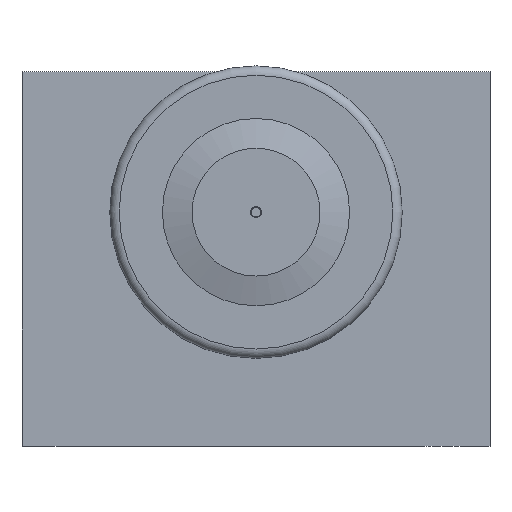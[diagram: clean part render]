
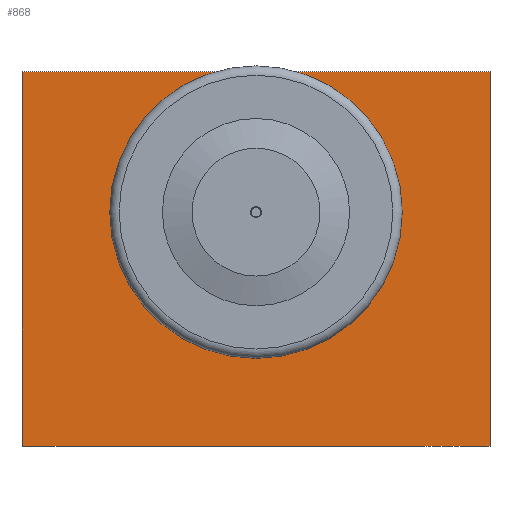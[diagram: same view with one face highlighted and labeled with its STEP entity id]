
A CAD part, front view. The second image highlights one B-rep face of the part: STEP entity #868.
In plain terms, the highlighted planar face has unit normal (0, -1, 0).
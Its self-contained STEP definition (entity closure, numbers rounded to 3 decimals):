
#38=FACE_BOUND('',#159,.T.);
#53=PLANE('',#980);
#95=FACE_OUTER_BOUND('',#158,.T.);
#158=EDGE_LOOP('',(#742,#743,#744,#745));
#159=EDGE_LOOP('',(#746,#747));
#185=LINE('',#1355,#256);
#190=LINE('',#1369,#261);
#208=LINE('',#1435,#279);
#211=LINE('',#1439,#282);
#256=VECTOR('',#1101,10.);
#261=VECTOR('',#1112,10.);
#279=VECTOR('',#1170,10.);
#282=VECTOR('',#1175,10.);
#366=CIRCLE('',#981,17.5);
#367=CIRCLE('',#982,17.5);
#400=VERTEX_POINT('',#1352);
#401=VERTEX_POINT('',#1354);
#407=VERTEX_POINT('',#1368);
#435=VERTEX_POINT('',#1434);
#444=VERTEX_POINT('',#1468);
#445=VERTEX_POINT('',#1469);
#494=EDGE_CURVE('',#401,#400,#185,.T.);
#501=EDGE_CURVE('',#407,#401,#190,.T.);
#534=EDGE_CURVE('',#407,#435,#208,.T.);
#537=EDGE_CURVE('',#435,#400,#211,.T.);
#551=EDGE_CURVE('',#444,#445,#366,.T.);
#552=EDGE_CURVE('',#445,#444,#367,.T.);
#742=ORIENTED_EDGE('',*,*,#494,.T.);
#743=ORIENTED_EDGE('',*,*,#537,.F.);
#744=ORIENTED_EDGE('',*,*,#534,.F.);
#745=ORIENTED_EDGE('',*,*,#501,.T.);
#746=ORIENTED_EDGE('',*,*,#551,.T.);
#747=ORIENTED_EDGE('',*,*,#552,.T.);
#868=ADVANCED_FACE('',(#95,#38),#53,.T.);
#980=AXIS2_PLACEMENT_3D('',#1467,#1201,#1202);
#981=AXIS2_PLACEMENT_3D('',#1470,#1203,#1204);
#982=AXIS2_PLACEMENT_3D('',#1471,#1205,#1206);
#1101=DIRECTION('',(0.,0.,1.));
#1112=DIRECTION('',(1.,0.,0.));
#1170=DIRECTION('',(0.,0.,1.));
#1175=DIRECTION('',(1.,0.,0.));
#1201=DIRECTION('center_axis',(0.,-1.,0.));
#1202=DIRECTION('ref_axis',(0.,0.,-1.));
#1203=DIRECTION('center_axis',(0.,1.,0.));
#1204=DIRECTION('ref_axis',(1.,0.,0.));
#1205=DIRECTION('center_axis',(0.,1.,0.));
#1206=DIRECTION('ref_axis',(1.,0.,0.));
#1352=CARTESIAN_POINT('',(100.,0.,80.));
#1354=CARTESIAN_POINT('',(100.,0.,0.));
#1355=CARTESIAN_POINT('',(100.,0.,0.));
#1368=CARTESIAN_POINT('',(0.,0.,0.));
#1369=CARTESIAN_POINT('',(0.,0.,0.));
#1434=CARTESIAN_POINT('',(0.,0.,80.));
#1435=CARTESIAN_POINT('',(0.,0.,0.));
#1439=CARTESIAN_POINT('',(0.,0.,80.));
#1467=CARTESIAN_POINT('Origin',(0.,0.,0.));
#1468=CARTESIAN_POINT('',(67.5,0.,50.));
#1469=CARTESIAN_POINT('',(32.5,0.,50.));
#1470=CARTESIAN_POINT('Origin',(50.,0.,50.));
#1471=CARTESIAN_POINT('Origin',(50.,0.,50.));
